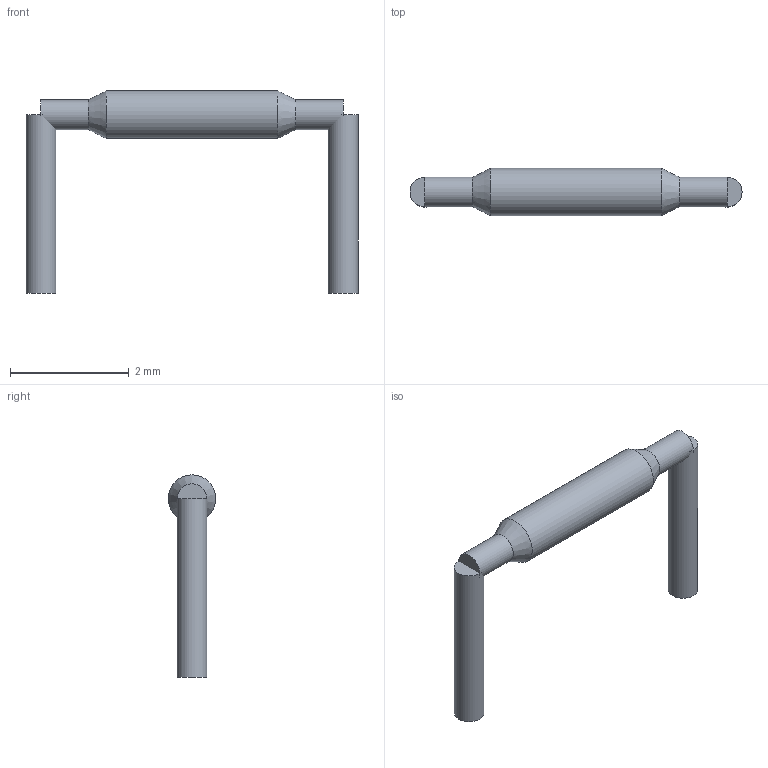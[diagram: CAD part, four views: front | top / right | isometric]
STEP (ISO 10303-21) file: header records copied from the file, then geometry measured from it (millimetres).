
FILE_DESCRIPTION(('FreeCAD Model'),'2;1');
FILE_NAME('Open CASCADE Shape Model','2026-04-07T19:07:43',('FreeCAD'),( 'FreeCAD'),'Open CASCADE STEP processor 7.8','FreeCAD','Unknown');
FILE_SCHEMA(('AUTOMOTIVE_DESIGN { 1 0 10303 214 1 1 1 1 }'));
Length unit declared in the file: millimetre
Products named in the file (1): Open CASCADE STEP translator 7.8 2
Bounding box: 5.58 x 0.8 x 3.4 mm (x, y, z)
Volume: 3.8 mm3; surface area: 27.6 mm2
Topology: 4 solids, 4 shells, 14 faces, 16 edges, 10 vertices
Faces by surface type: plane 8, cylinder 4, cone 2
Full cylindrical faces by diameter (mm): 0.5 x3, 0.8 x1
Entity records: 287 total; most frequent: DIRECTION 56, CARTESIAN_POINT 41, ORIENTED_EDGE 32, AXIS2_PLACEMENT_3D 25, EDGE_CURVE 16, ADVANCED_FACE 14, FACE_BOUND 14, EDGE_LOOP 14
